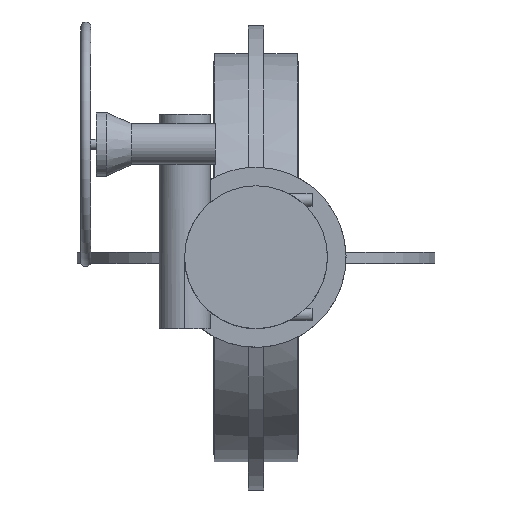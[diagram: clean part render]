
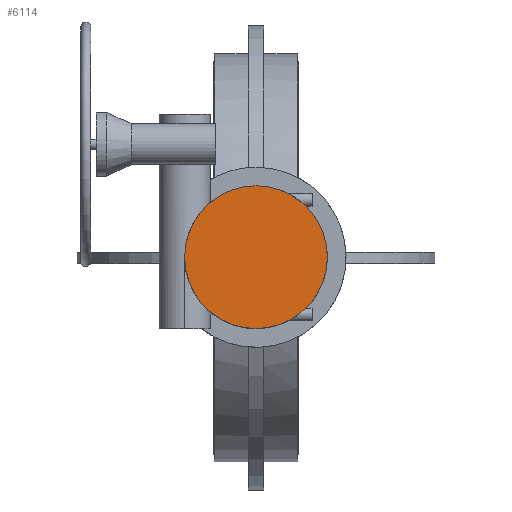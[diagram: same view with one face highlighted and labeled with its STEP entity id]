
A CAD part, top view. The second image highlights one B-rep face of the part: STEP entity #6114.
In plain terms, the highlighted planar face has unit normal (0, 0, 1).
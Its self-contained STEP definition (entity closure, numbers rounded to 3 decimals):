
#6114=ADVANCED_FACE('',(#11360),#11362,.T.);
#11360=FACE_BOUND('',#11361,.T.);
#11361=EDGE_LOOP('',(#15261));
#11362=PLANE('',#11363);
#11363=AXIS2_PLACEMENT_3D('',#11364,#11365,#11366);
#11364=CARTESIAN_POINT('',(0.,0.,766.));
#11365=DIRECTION('',(0.,0.,1.));
#11366=DIRECTION('',(0.,1.,0.));
#15261=ORIENTED_EDGE('',*,*,#17218,.F.);
#17218=EDGE_CURVE('',#20377,#20377,#20378,.T.);
#20377=VERTEX_POINT('',#28842);
#20378=CIRCLE('',#28843,140.);
#28842=CARTESIAN_POINT('',(0.,140.,766.));
#28843=AXIS2_PLACEMENT_3D('',#28844,#28845,#28846);
#28844=CARTESIAN_POINT('',(0.,0.,766.));
#28845=DIRECTION('',(0.,0.,-1.));
#28846=DIRECTION('',(0.,1.,0.));
